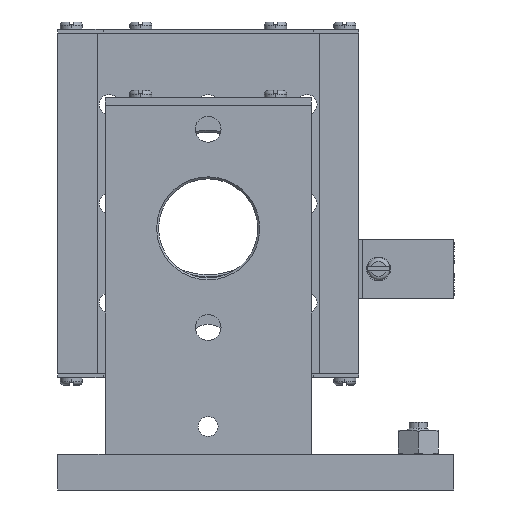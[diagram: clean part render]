
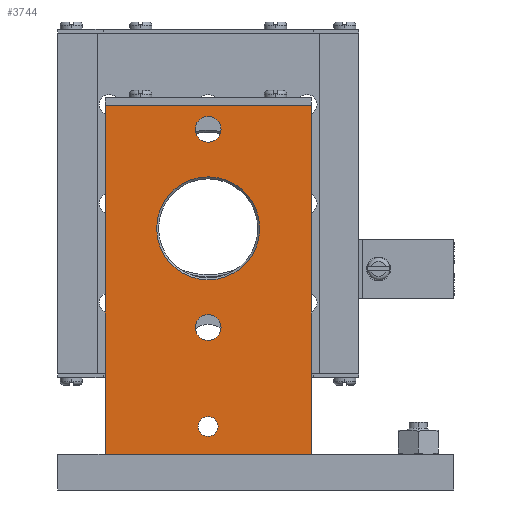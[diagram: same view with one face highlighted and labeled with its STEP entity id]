
A CAD part, left-side view. The second image highlights one B-rep face of the part: STEP entity #3744.
In plain terms, the highlighted planar face has unit normal (-1, 0, 0).
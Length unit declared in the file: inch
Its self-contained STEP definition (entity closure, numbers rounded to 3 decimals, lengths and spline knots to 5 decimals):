
#310=DIRECTION('',(0.,0.,1.));
#311=VECTOR('',#310,3.46457);
#312=CARTESIAN_POINT('',(-0.31496,-1.02362,0.));
#313=LINE('',#312,#311);
#513=DIRECTION('',(0.,0.,1.));
#514=VECTOR('',#513,3.46457);
#515=CARTESIAN_POINT('',(-0.31496,1.02362,0.));
#516=LINE('',#515,#514);
#517=CARTESIAN_POINT('',(-0.31496,0.,0.27559));
#518=DIRECTION('',(1.,0.,0.));
#519=DIRECTION('',(0.,-1.,0.));
#520=AXIS2_PLACEMENT_3D('',#517,#518,#519);
#522=CARTESIAN_POINT('',(-0.31496,0.,0.27559));
#523=DIRECTION('',(1.,0.,0.));
#524=DIRECTION('',(0.,1.,0.));
#525=AXIS2_PLACEMENT_3D('',#522,#523,#524);
#527=CARTESIAN_POINT('',(-0.31496,0.,1.25984));
#528=DIRECTION('',(-1.,0.,0.));
#529=DIRECTION('',(0.,-1.,0.));
#530=AXIS2_PLACEMENT_3D('',#527,#528,#529);
#532=CARTESIAN_POINT('',(-0.31496,0.,1.25984));
#533=DIRECTION('',(-1.,0.,0.));
#534=DIRECTION('',(0.,1.,0.));
#535=AXIS2_PLACEMENT_3D('',#532,#533,#534);
#537=CARTESIAN_POINT('',(-0.31496,0.,3.22835));
#538=DIRECTION('',(-1.,0.,0.));
#539=DIRECTION('',(0.,-1.,0.));
#540=AXIS2_PLACEMENT_3D('',#537,#538,#539);
#542=CARTESIAN_POINT('',(-0.31496,0.,3.22835));
#543=DIRECTION('',(-1.,0.,0.));
#544=DIRECTION('',(0.,1.,0.));
#545=AXIS2_PLACEMENT_3D('',#542,#543,#544);
#547=CARTESIAN_POINT('',(-0.31496,0.,2.24409));
#548=DIRECTION('',(1.,0.,0.));
#549=DIRECTION('',(0.,-1.,0.));
#550=AXIS2_PLACEMENT_3D('',#547,#548,#549);
#552=CARTESIAN_POINT('',(-0.31496,0.,2.24409));
#553=DIRECTION('',(1.,0.,0.));
#554=DIRECTION('',(0.,1.,0.));
#555=AXIS2_PLACEMENT_3D('',#552,#553,#554);
#565=DIRECTION('',(0.,-1.,0.));
#566=VECTOR('',#565,2.04724);
#567=CARTESIAN_POINT('',(-0.31496,1.02362,0.));
#568=LINE('',#567,#566);
#1129=DIRECTION('',(0.,-1.,0.));
#1130=VECTOR('',#1129,2.04724);
#1131=CARTESIAN_POINT('',(-0.31496,1.02362,
3.46457));
#1132=LINE('',#1131,#1130);
#2579=CARTESIAN_POINT('',(-0.31496,1.02362,0.));
#2580=CARTESIAN_POINT('',(-0.31496,-1.02362,0.));
#2581=VERTEX_POINT('',#2579);
#2582=VERTEX_POINT('',#2580);
#2583=CARTESIAN_POINT('',(-0.31496,1.02362,
3.46457));
#2584=CARTESIAN_POINT('',(-0.31496,-1.02362,
3.46457));
#2585=VERTEX_POINT('',#2583);
#2586=VERTEX_POINT('',#2584);
#2603=CARTESIAN_POINT('',(-0.31496,-0.09843,
0.27559));
#2604=CARTESIAN_POINT('',(-0.31496,0.09843,
0.27559));
#2605=VERTEX_POINT('',#2603);
#2606=VERTEX_POINT('',#2604);
#2611=CARTESIAN_POINT('',(-0.31496,-0.12795,
1.25984));
#2612=CARTESIAN_POINT('',(-0.31496,0.12795,
1.25984));
#2613=VERTEX_POINT('',#2611);
#2614=VERTEX_POINT('',#2612);
#2619=CARTESIAN_POINT('',(-0.31496,-0.12795,
3.22835));
#2620=CARTESIAN_POINT('',(-0.31496,0.12795,
3.22835));
#2621=VERTEX_POINT('',#2619);
#2622=VERTEX_POINT('',#2620);
#2659=CARTESIAN_POINT('',(-0.31496,-0.51181,
2.24409));
#2660=CARTESIAN_POINT('',(-0.31496,0.51181,
2.24409));
#2661=VERTEX_POINT('',#2659);
#2662=VERTEX_POINT('',#2660);
#3707=CARTESIAN_POINT('',(-0.31496,1.02362,0.));
#3708=DIRECTION('',(-1.,0.,0.));
#3709=DIRECTION('',(0.,-1.,0.));
#3710=AXIS2_PLACEMENT_3D('',#3707,#3708,#3709);
#3711=PLANE('',#3710);
#3713=ORIENTED_EDGE('',*,*,#3712,.F.);
#3715=ORIENTED_EDGE('',*,*,#3714,.T.);
#3717=ORIENTED_EDGE('',*,*,#3716,.T.);
#3718=ORIENTED_EDGE('',*,*,#3482,.F.);
#3719=EDGE_LOOP('',(#3713,#3715,#3717,#3718));
#3720=FACE_OUTER_BOUND('',#3719,.F.);
#3722=ORIENTED_EDGE('',*,*,#3721,.F.);
#3724=ORIENTED_EDGE('',*,*,#3723,.F.);
#3725=EDGE_LOOP('',(#3722,#3724));
#3726=FACE_BOUND('',#3725,.F.);
#3728=ORIENTED_EDGE('',*,*,#3727,.T.);
#3730=ORIENTED_EDGE('',*,*,#3729,.T.);
#3731=EDGE_LOOP('',(#3728,#3730));
#3732=FACE_BOUND('',#3731,.F.);
#3733=ORIENTED_EDGE('',*,*,#3697,.T.);
#3735=ORIENTED_EDGE('',*,*,#3734,.T.);
#3736=EDGE_LOOP('',(#3733,#3735));
#3737=FACE_BOUND('',#3736,.F.);
#3739=ORIENTED_EDGE('',*,*,#3738,.F.);
#3741=ORIENTED_EDGE('',*,*,#3740,.F.);
#3742=EDGE_LOOP('',(#3739,#3741));
#3743=FACE_BOUND('',#3742,.F.);
#3744=ADVANCED_FACE('',(#3720,#3726,#3732,#3737,#3743),#3711,.T.);
#521=CIRCLE('',#520,0.09843);
#526=CIRCLE('',#525,0.09843);
#531=CIRCLE('',#530,0.12795);
#536=CIRCLE('',#535,0.12795);
#541=CIRCLE('',#540,0.12795);
#546=CIRCLE('',#545,0.12795);
#551=CIRCLE('',#550,0.51181);
#556=CIRCLE('',#555,0.51181);
#3482=EDGE_CURVE('',#2582,#2586,#313,.T.);
#3697=EDGE_CURVE('',#2621,#2622,#541,.T.);
#3712=EDGE_CURVE('',#2581,#2582,#568,.T.);
#3714=EDGE_CURVE('',#2581,#2585,#516,.T.);
#3716=EDGE_CURVE('',#2585,#2586,#1132,.T.);
#3721=EDGE_CURVE('',#2605,#2606,#521,.T.);
#3723=EDGE_CURVE('',#2606,#2605,#526,.T.);
#3727=EDGE_CURVE('',#2613,#2614,#531,.T.);
#3729=EDGE_CURVE('',#2614,#2613,#536,.T.);
#3734=EDGE_CURVE('',#2622,#2621,#546,.T.);
#3738=EDGE_CURVE('',#2661,#2662,#551,.T.);
#3740=EDGE_CURVE('',#2662,#2661,#556,.T.);
